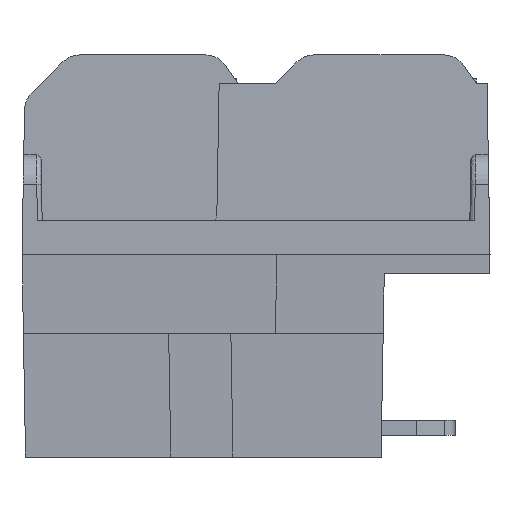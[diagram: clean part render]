
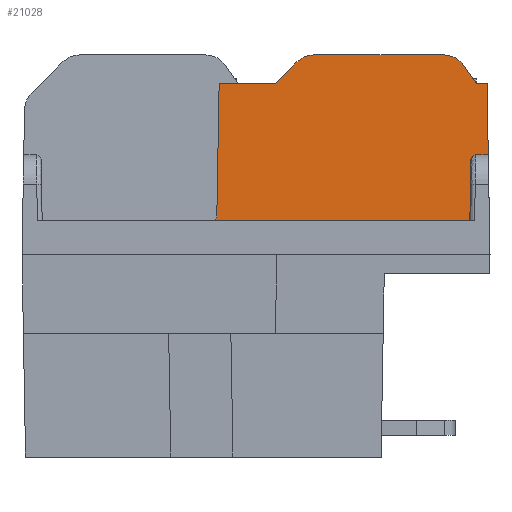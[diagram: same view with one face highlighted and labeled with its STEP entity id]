
A CAD part, left-side view. The second image highlights one B-rep face of the part: STEP entity #21028.
In plain terms, the highlighted planar face has unit normal (-1, 0, 0.018).
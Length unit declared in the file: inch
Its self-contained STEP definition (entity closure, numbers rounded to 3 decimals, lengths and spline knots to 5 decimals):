
#771=ELLIPSE('',#22314,0.01,0.01);
#778=ELLIPSE('',#22327,0.01,0.01);
#779=ELLIPSE('',#22328,0.05001,0.05);
#780=ELLIPSE('',#22329,0.05001,0.05);
#1203=FACE_OUTER_BOUND('',#2346,.T.);
#2346=EDGE_LOOP('',(#15174,#15175,#15176,#15177,#15178,#15179,#15180,#15181,
#15182,#15183,#15184,#15185,#15186,#15187));
#3337=LINE('',#29071,#5961);
#3434=LINE('',#29288,#6058);
#3958=LINE('',#30325,#6582);
#4179=LINE('',#31034,#6803);
#4190=LINE('',#31069,#6814);
#4191=LINE('',#31072,#6815);
#4192=LINE('',#31075,#6816);
#4193=LINE('',#31077,#6817);
#4194=LINE('',#31081,#6818);
#4195=LINE('',#31084,#6819);
#5961=VECTOR('',#23582,0.3937);
#6058=VECTOR('',#23709,0.3937);
#6582=VECTOR('',#24527,0.3937);
#6803=VECTOR('',#24894,0.3937);
#6814=VECTOR('',#24925,0.3937);
#6815=VECTOR('',#24928,0.3937);
#6816=VECTOR('',#24931,0.3937);
#6817=VECTOR('',#24932,0.3937);
#6818=VECTOR('',#24935,0.3937);
#6819=VECTOR('',#24938,0.3937);
#8579=VERTEX_POINT('',#29068);
#8580=VERTEX_POINT('',#29070);
#8672=VERTEX_POINT('',#29286);
#9037=VERTEX_POINT('',#30322);
#9038=VERTEX_POINT('',#30324);
#9210=VERTEX_POINT('',#31027);
#9211=VERTEX_POINT('',#31029);
#9212=VERTEX_POINT('',#31033);
#9227=VERTEX_POINT('',#31071);
#9228=VERTEX_POINT('',#31073);
#9229=VERTEX_POINT('',#31076);
#9230=VERTEX_POINT('',#31078);
#9231=VERTEX_POINT('',#31080);
#9232=VERTEX_POINT('',#31082);
#10609=EDGE_CURVE('',#8579,#8580,#3337,.T.);
#10711=EDGE_CURVE('',#8672,#8579,#3434,.T.);
#11237=EDGE_CURVE('',#9037,#9038,#3958,.T.);
#11494=EDGE_CURVE('',#9210,#9211,#771,.T.);
#11496=EDGE_CURVE('',#9212,#9210,#4179,.T.);
#11515=EDGE_CURVE('',#9037,#9211,#4190,.T.);
#11516=EDGE_CURVE('',#9227,#9212,#4191,.F.);
#11517=EDGE_CURVE('',#9228,#9227,#778,.F.);
#11518=EDGE_CURVE('',#8580,#9228,#4192,.F.);
#11519=EDGE_CURVE('',#9229,#8672,#4193,.T.);
#11520=EDGE_CURVE('',#9230,#9229,#779,.T.);
#11521=EDGE_CURVE('',#9231,#9230,#4194,.T.);
#11522=EDGE_CURVE('',#9232,#9231,#780,.T.);
#11523=EDGE_CURVE('',#9038,#9232,#4195,.T.);
#15174=ORIENTED_EDGE('',*,*,#11515,.T.);
#15175=ORIENTED_EDGE('',*,*,#11494,.F.);
#15176=ORIENTED_EDGE('',*,*,#11496,.F.);
#15177=ORIENTED_EDGE('',*,*,#11516,.F.);
#15178=ORIENTED_EDGE('',*,*,#11517,.F.);
#15179=ORIENTED_EDGE('',*,*,#11518,.F.);
#15180=ORIENTED_EDGE('',*,*,#10609,.F.);
#15181=ORIENTED_EDGE('',*,*,#10711,.F.);
#15182=ORIENTED_EDGE('',*,*,#11519,.F.);
#15183=ORIENTED_EDGE('',*,*,#11520,.F.);
#15184=ORIENTED_EDGE('',*,*,#11521,.F.);
#15185=ORIENTED_EDGE('',*,*,#11522,.F.);
#15186=ORIENTED_EDGE('',*,*,#11523,.F.);
#15187=ORIENTED_EDGE('',*,*,#11237,.F.);
#20126=PLANE('',#22326);
#21028=ADVANCED_FACE('',(#1203),#20126,.F.);
#22314=AXIS2_PLACEMENT_3D('',#31030,#24889,#24890);
#22326=AXIS2_PLACEMENT_3D('',#31070,#24926,#24927);
#22327=AXIS2_PLACEMENT_3D('',#31074,#24929,#24930);
#22328=AXIS2_PLACEMENT_3D('',#31079,#24933,#24934);
#22329=AXIS2_PLACEMENT_3D('',#31083,#24936,#24937);
#23582=DIRECTION('',(-0.017,-0.017,-1.));
#23709=DIRECTION('',(0.,-1.,0.));
#24527=DIRECTION('',(0.,-1.,0.));
#24889=DIRECTION('center_axis',(-1.,0.,0.017));
#24890=DIRECTION('ref_axis',(-0.017,0.,-1.));
#24894=DIRECTION('',(0.,1.,0.));
#24925=DIRECTION('',(-0.017,0.017,-1.));
#24926=DIRECTION('center_axis',(1.,0.,-0.017));
#24927=DIRECTION('ref_axis',(-0.017,0.,-1.));
#24928=DIRECTION('',(0.017,-0.017,1.));
#24929=DIRECTION('center_axis',(1.,0.,-0.017));
#24930=DIRECTION('ref_axis',(0.017,0.,1.));
#24931=DIRECTION('',(0.,-1.,0.));
#24932=DIRECTION('',(-0.014,-0.574,-0.819));
#24933=DIRECTION('center_axis',(1.,0.,-0.017));
#24934=DIRECTION('ref_axis',(0.017,0.,1.));
#24935=DIRECTION('',(0.,-1.,0.));
#24936=DIRECTION('center_axis',(1.,0.,-0.017));
#24937=DIRECTION('ref_axis',(0.017,0.,1.));
#24938=DIRECTION('',(0.012,-0.707,0.707));
#29068=CARTESIAN_POINT('',(0.46647,0.00698,0.4));
#29070=CARTESIAN_POINT('',(0.46386,0.00436,0.25));
#29071=CARTESIAN_POINT('',(0.46172,0.00223,0.12756));
#29286=CARTESIAN_POINT('',(0.46647,0.02896,0.4));
#29288=CARTESIAN_POINT('',(0.46647,0.26288,0.4));
#30322=CARTESIAN_POINT('',(0.46647,0.57,0.4));
#30324=CARTESIAN_POINT('',(0.46647,0.45171,0.4));
#30325=CARTESIAN_POINT('',(0.46647,0.51338,0.4));
#31027=CARTESIAN_POINT('',(0.46145,0.58485,0.112));
#31029=CARTESIAN_POINT('',(0.46162,0.57486,0.12183));
#31030=CARTESIAN_POINT('Origin',(0.46162,0.58485,0.122));
#31033=CARTESIAN_POINT('',(0.46145,0.04305,0.112));
#31034=CARTESIAN_POINT('',(0.46145,0.49465,0.112));
#31069=CARTESIAN_POINT('',(0.46171,0.57476,0.12727));
#31070=CARTESIAN_POINT('Origin',(0.46234,0.49681,0.16345));
#31071=CARTESIAN_POINT('',(0.46368,0.04081,0.24017));
#31072=CARTESIAN_POINT('',(0.46078,0.04371,0.07375));
#31073=CARTESIAN_POINT('',(0.46386,0.03081,0.25));
#31074=CARTESIAN_POINT('Origin',(0.46368,0.03081,0.24));
#31075=CARTESIAN_POINT('',(0.46386,0.25965,0.25));
#31076=CARTESIAN_POINT('',(0.46715,0.05604,0.43868));
#31077=CARTESIAN_POINT('',(0.46734,0.06384,0.44982));
#31078=CARTESIAN_POINT('',(0.46752,0.097,0.46));
#31079=CARTESIAN_POINT('Origin',(0.46665,0.097,0.41));
#31080=CARTESIAN_POINT('',(0.46752,0.371,0.46));
#31081=CARTESIAN_POINT('',(0.46752,0.4339,0.46));
#31082=CARTESIAN_POINT('',(0.46727,0.40636,0.44536));
#31083=CARTESIAN_POINT('Origin',(0.46665,0.371,0.41));
#31084=CARTESIAN_POINT('',(0.46524,0.52215,0.32956));
